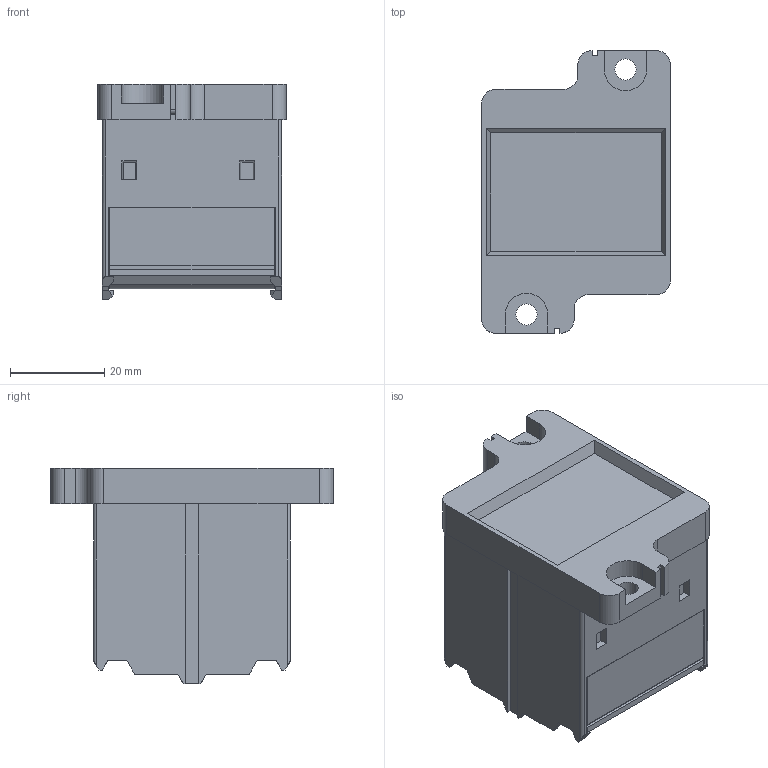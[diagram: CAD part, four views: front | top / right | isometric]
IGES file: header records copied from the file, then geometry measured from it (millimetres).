
Global section: file name: No Iges File Name specified; native system: Autodesk Inventor 2009; preprocessor: AutoDesk Inventor Iges Exporter R2009; author: Niriawan; date: 20080819.115608; units: millimetre
Bounding box: 40 x 60 x 45.65 mm (x, y, z)
Volume: 66118.3 mm3; surface area: 17279.9 mm2
Topology: 1 solids, 1 shells, 345 faces, 860 edges, 524 vertices
Faces by surface type: plane 209, revolution 122, cylinder 14
